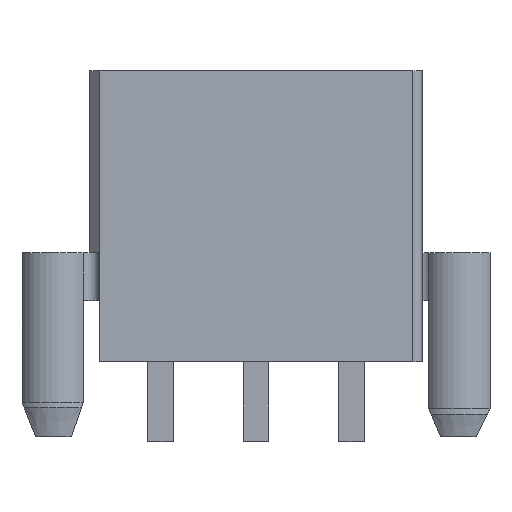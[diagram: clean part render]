
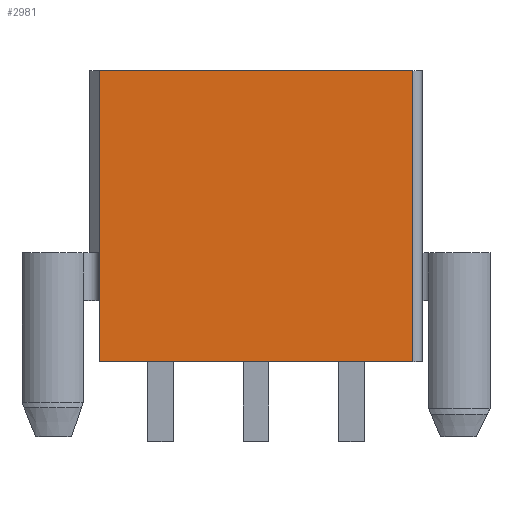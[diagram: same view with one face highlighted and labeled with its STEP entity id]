
A CAD part, top view. The second image highlights one B-rep face of the part: STEP entity #2981.
In plain terms, the highlighted planar face has unit normal (0, 0, 1).
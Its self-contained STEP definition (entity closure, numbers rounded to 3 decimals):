
#41=DIRECTION('',(0.,-1.,0.));
#42=VECTOR('',#41,12.8);
#43=CARTESIAN_POINT('',(-6.9,12.8,4.8));
#44=LINE('',#43,#42);
#141=DIRECTION('',(1.,0.,0.));
#142=VECTOR('',#141,13.8);
#143=CARTESIAN_POINT('',(-6.9,0.,4.8));
#144=LINE('',#143,#142);
#583=DIRECTION('',(0.,-1.,0.));
#584=VECTOR('',#583,12.8);
#585=CARTESIAN_POINT('',(6.9,12.8,4.8));
#586=LINE('',#585,#584);
#603=DIRECTION('',(1.,0.,0.));
#604=VECTOR('',#603,13.8);
#605=CARTESIAN_POINT('',(-6.9,12.8,4.8));
#606=LINE('',#605,#604);
#1787=CARTESIAN_POINT('',(-6.9,12.8,4.8));
#1788=CARTESIAN_POINT('',(-6.9,0.,4.8));
#1789=VERTEX_POINT('',#1787);
#1790=VERTEX_POINT('',#1788);
#1795=CARTESIAN_POINT('',(6.9,12.8,4.8));
#1796=CARTESIAN_POINT('',(6.9,0.,4.8));
#1797=VERTEX_POINT('',#1795);
#1798=VERTEX_POINT('',#1796);
#2970=CARTESIAN_POINT('',(-6.9,12.8,4.8));
#2971=DIRECTION('',(0.,0.,1.));
#2972=DIRECTION('',(0.,-1.,0.));
#2973=AXIS2_PLACEMENT_3D('',#2970,#2971,#2972);
#2974=PLANE('',#2973);
#2975=ORIENTED_EDGE('',*,*,#2378,.F.);
#2976=ORIENTED_EDGE('',*,*,#2786,.T.);
#2977=ORIENTED_EDGE('',*,*,#2952,.T.);
#2978=ORIENTED_EDGE('',*,*,#2393,.F.);
#2979=EDGE_LOOP('',(#2975,#2976,#2977,#2978));
#2980=FACE_OUTER_BOUND('',#2979,.F.);
#2981=ADVANCED_FACE('',(#2980),#2974,.T.);
#2378=EDGE_CURVE('',#1789,#1790,#44,.T.);
#2393=EDGE_CURVE('',#1790,#1798,#144,.T.);
#2786=EDGE_CURVE('',#1789,#1797,#606,.T.);
#2952=EDGE_CURVE('',#1797,#1798,#586,.T.);
